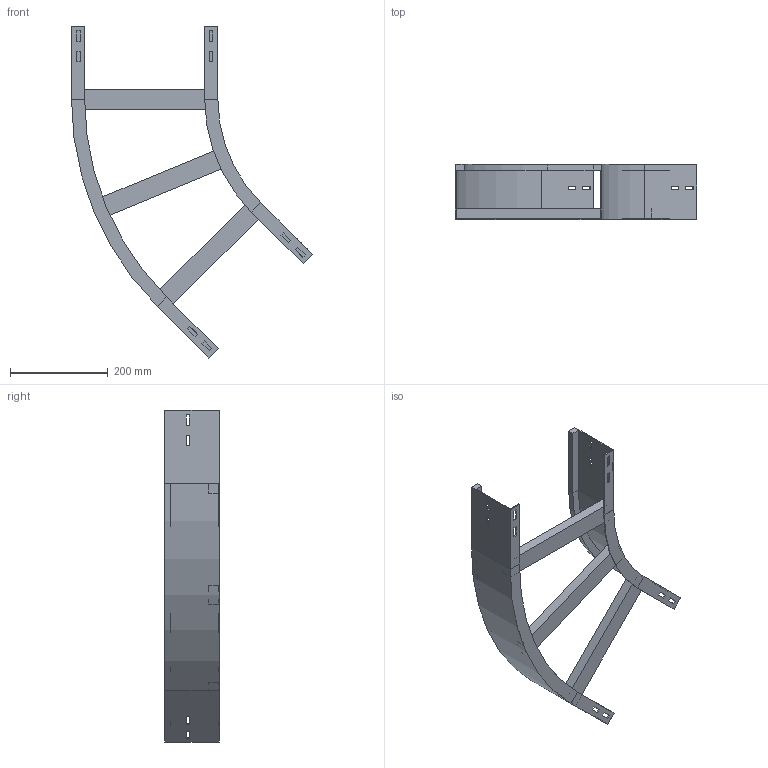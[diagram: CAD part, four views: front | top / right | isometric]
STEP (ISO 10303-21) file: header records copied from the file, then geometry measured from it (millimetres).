
FILE_DESCRIPTION (( 'STEP AP214' ), '1' );
FILE_NAME ('A2_11B3J300.step', '2025-02-21T15:14:15', ( '' ), ( '' ), 'SwSTEP 2.0', 'SolidWorks 2023', '' );
FILE_SCHEMA (( 'AUTOMOTIVE_DESIGN' ));
Length unit declared in the file: millimetre
Products named in the file (4): A2_LONGH.INTERNO 45°_H112.5_R300; TRAVERSINO_300; A2_LONGH.ESTERNO 45°_H112.5_R300+300; A2_11B3J300
Assembly tree (5 placements, depth 2):
  A2_11B3J300
    A2_LONGH.INTERNO 45°_H112.5_R300
    A2_LONGH.ESTERNO 45°_H112.5_R300+300
    TRAVERSINO_300  x3
Bounding box: 493.93 x 112.5 x 680.33 mm (x, y, z)
Volume: 1324654.8 mm3; surface area: 517536.9 mm2
Topology: 5 solids, 5 shells, 134 faces, 340 edges, 216 vertices
Faces by surface type: plane 126, cylinder 8
Entity records: 3821 total; most frequent: CARTESIAN_POINT 646, ORIENTED_EDGE 632, DIRECTION 592, EDGE_CURVE 316, VECTOR 300, LINE 300, VERTEX_POINT 200, EDGE_LOOP 154
